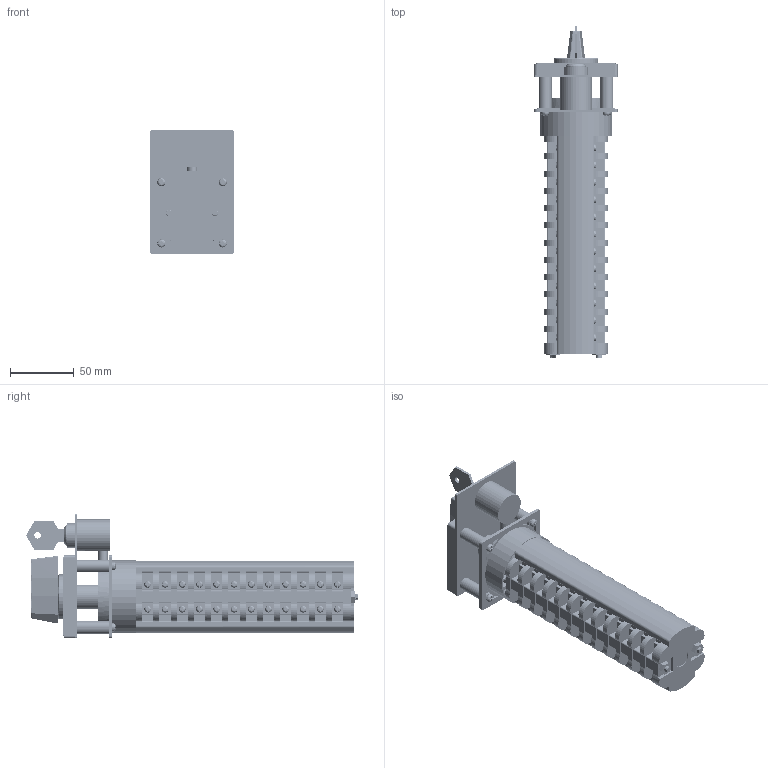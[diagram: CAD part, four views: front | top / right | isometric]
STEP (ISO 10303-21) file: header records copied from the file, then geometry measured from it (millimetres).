
FILE_DESCRIPTION(/* description */ (''),/* implementation_level */ '2;1');
FILE_NAME(/* name */ '4G16,25_S5_12_korpusow.stp',/* time_stamp */ '2021-07-21T12:53:43+02:00',/* author */ (''),/* organization */ (''),/* preprocessor_version */ 'ST-DEVELOPER v18.1',/* originating_system */ 'SIEMENS PLM Software NX 1965',/* authorisation */ '');
FILE_SCHEMA (('AUTOMOTIVE_DESIGN { 1 0 10303 214 3 1 1 1 }'));
Products named in the file (1): 4G16,25_S5_12_korpusow_stp
Bounding box: 65 x 259.6 x 97.5 mm (x, y, z)
Volume: 480094.5 mm3; surface area: 111323.5 mm2
Topology: 2 solids, 13 shells, 2539 faces, 7093 edges, 4684 vertices
Faces by surface type: plane 1537, cylinder 672, bspline 227, cone 100, sphere 2, torus 1
Full cylindrical faces by diameter (mm): 3.3 x2, 4 x4, 4.3 x4, 5 x3, 5.4 x49, 6.4 x4, 6.5 x2, 7.2 x4, 7.5 x1, 10 x5, 14 x1, 15.8 x1, 19 x2, 21.2 x1, 25 x1, 35 x1, 57 x1
Entity records: 230554 total; most frequent: CARTESIAN_POINT 168315, ORIENTED_EDGE 13634, DIRECTION 11712, EDGE_CURVE 6817, VERTEX_POINT 4556, AXIS2_PLACEMENT_3D 4209, LINE 3294, VECTOR 3294
